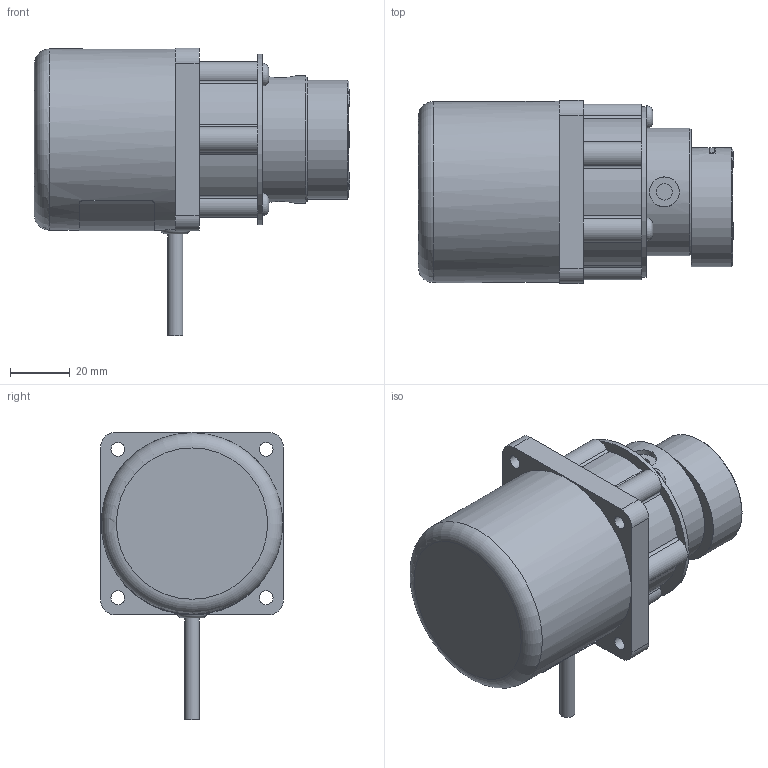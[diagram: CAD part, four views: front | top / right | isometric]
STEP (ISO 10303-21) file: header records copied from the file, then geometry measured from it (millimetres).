
FILE_DESCRIPTION (( 'STEP AP214' ), '1' );
FILE_NAME ('PD12-PM-0.STEP', '2017-03-03T21:42:20', ( '' ), ( '' ), 'SwSTEP 2.0', 'SolidWorks 2015', '' );
FILE_SCHEMA (( 'AUTOMOTIVE_DESIGN' ));
Length unit declared in the file: millimetre
Products named in the file (15): Copy of BB0031^PD12-BO-0; PD03-FL-0; PD11-MA-0; PD11-MB-0; Bracket^PD11-MB-0; MB0055^Bracket_PD11-MB-0; PD11-MO-0_bottom cut; PD12-PM-0; PD03-SC-3; PD12-PU-0; PD03-SC-1; PD12-EP-0; PD03-SC-0; PD11-CU-0; PD12-BO-0
Assembly tree (23 placements, depth 5):
  PD12-PM-0
    PD11-MA-0
      PD11-MO-0_bottom cut
      PD11-MB-0
        Bracket^PD11-MB-0
          MB0055^Bracket_PD11-MB-0
    PD12-PU-0
      PD03-FL-0
      PD12-BO-0
        Copy of BB0031^PD12-BO-0
      PD11-CU-0
      PD03-SC-0  x6
      PD12-EP-0
      PD03-SC-1  x3
    PD03-SC-3  x3
Bounding box: 105.2 x 61 x 96 mm (x, y, z)
Volume: 224228.9 mm3; surface area: 48810.9 mm2
Topology: 18 solids, 18 shells, 235 faces, 532 edges, 350 vertices
Faces by surface type: cylinder 106, plane 89, cone 21, torus 15, bspline 4
Full cylindrical faces by diameter (mm): 3.2 x9, 3.3 x6, 4 x4, 4.2 x3, 4.6 x4, 5 x1, 5.41 x2, 5.5 x9, 6 x4, 7.6 x3, 8 x1, 10 x2, 27.1 x1, 27.14 x1, 28 x2, 29.8 x2, 39.75 x1, 42.52 x1, 57 x1, 60.5 x1
Entity records: 6786 total; most frequent: CARTESIAN_POINT 1458, DIRECTION 1006, ORIENTED_EDGE 754, AXIS2_PLACEMENT_3D 437, EDGE_CURVE 377, EDGE_LOOP 338, VERTEX_POINT 291, FACE_OUTER_BOUND 248
